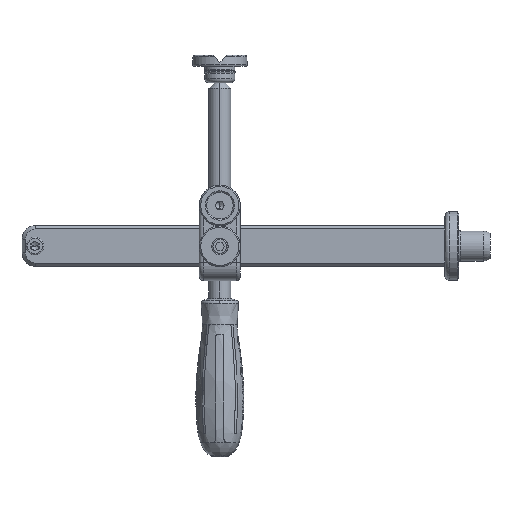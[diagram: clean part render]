
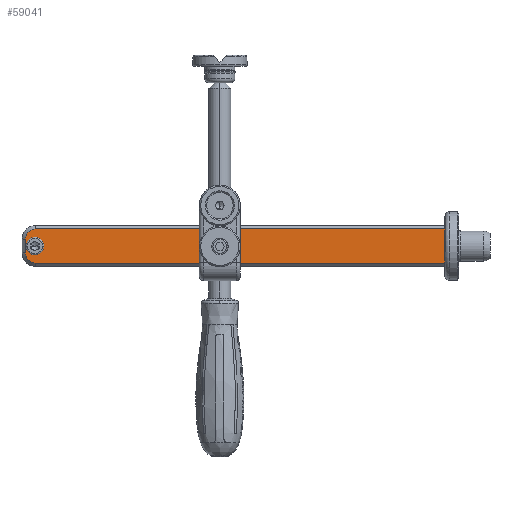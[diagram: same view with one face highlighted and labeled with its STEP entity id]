
A CAD part, left-side view. The second image highlights one B-rep face of the part: STEP entity #59041.
In plain terms, the highlighted planar face has unit normal (-1, 0, 0).
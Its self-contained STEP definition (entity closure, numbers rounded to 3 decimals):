
#1671 = DIRECTION ( 'NONE',  ( 0., 0., -1. ) ) ;
#1850 = CARTESIAN_POINT ( 'NONE',  ( -29., 10., -12.5 ) ) ;
#2211 = DIRECTION ( 'NONE',  ( 0., 1., 0. ) ) ;
#2681 = CIRCLE ( 'NONE', #35494, 4.4 ) ;
#3612 = ORIENTED_EDGE ( 'NONE', *, *, #53959, .T. ) ;
#3701 = DIRECTION ( 'NONE',  ( 0., 0., -1. ) ) ;
#4206 = ORIENTED_EDGE ( 'NONE', *, *, #39644, .T. ) ;
#5154 = VECTOR ( 'NONE', #53302, 1000. ) ;
#5571 = ORIENTED_EDGE ( 'NONE', *, *, #38606, .T. ) ;
#6192 = FACE_BOUND ( 'NONE', #47085, .T. ) ;
#6809 = CARTESIAN_POINT ( 'NONE',  ( -29., 317.5, -5. ) ) ;
#6903 = AXIS2_PLACEMENT_3D ( 'NONE', #27305, #32421, #3701 ) ;
#7207 = CARTESIAN_POINT ( 'NONE',  ( -29., 317.5, 5. ) ) ;
#12142 = CARTESIAN_POINT ( 'NONE',  ( -29., 310., 12.5 ) ) ;
#16421 = LINE ( 'NONE', #29451, #59246 ) ;
#16892 = EDGE_CURVE ( 'NONE', #44545, #17347, #2681, .T. ) ;
#17347 = VERTEX_POINT ( 'NONE', #48644 ) ;
#18708 = VECTOR ( 'NONE', #34644, 1000. ) ;
#20943 = AXIS2_PLACEMENT_3D ( 'NONE', #23767, #42203, #1671 ) ;
#21108 = DIRECTION ( 'NONE',  ( -1., 0., 0. ) ) ;
#21120 = DIRECTION ( 'NONE',  ( 0., 0., -1. ) ) ;
#22461 = DIRECTION ( 'NONE',  ( 0., 0., -1. ) ) ;
#23372 = DIRECTION ( 'NONE',  ( -1., 0., 0. ) ) ;
#23767 = CARTESIAN_POINT ( 'NONE',  ( -29., 320., 15. ) ) ;
#24440 = CARTESIAN_POINT ( 'NONE',  ( -29., 317.5, -5. ) ) ;
#24670 = FACE_OUTER_BOUND ( 'NONE', #54325, .T. ) ;
#25279 = VERTEX_POINT ( 'NONE', #50379 ) ;
#27305 = CARTESIAN_POINT ( 'NONE',  ( -29., 310.5, 0. ) ) ;
#29451 = CARTESIAN_POINT ( 'NONE',  ( -29., 320., 12.5 ) ) ;
#29553 = VECTOR ( 'NONE', #52471, 1000. ) ;
#29636 = ORIENTED_EDGE ( 'NONE', *, *, #45468, .T. ) ;
#30044 = CARTESIAN_POINT ( 'NONE',  ( -29., 320., -12.5 ) ) ;
#30909 = CARTESIAN_POINT ( 'NONE',  ( -29., 10., 12.5 ) ) ;
#31005 = VERTEX_POINT ( 'NONE', #54576 ) ;
#32269 = AXIS2_PLACEMENT_3D ( 'NONE', #36969, #23372, #22461 ) ;
#32421 = DIRECTION ( 'NONE',  ( 1., 0., 0. ) ) ;
#32664 = CARTESIAN_POINT ( 'NONE',  ( -29., 310.5, -4.4 ) ) ;
#32735 = LINE ( 'NONE', #55992, #55175 ) ;
#32894 = ORIENTED_EDGE ( 'NONE', *, *, #36106, .T. ) ;
#34489 = VERTEX_POINT ( 'NONE', #24440 ) ;
#34644 = DIRECTION ( 'NONE',  ( 0., 0., 1. ) ) ;
#34931 = CIRCLE ( 'NONE', #6903, 4.4 ) ;
#34974 = AXIS2_PLACEMENT_3D ( 'NONE', #50173, #21108, #36603 ) ;
#35264 = VERTEX_POINT ( 'NONE', #1850 ) ;
#35494 = AXIS2_PLACEMENT_3D ( 'NONE', #58271, #54042, #21120 ) ;
#36106 = EDGE_CURVE ( 'NONE', #40090, #56275, #54442, .T. ) ;
#36603 = DIRECTION ( 'NONE',  ( 0., 0., -1. ) ) ;
#36969 = CARTESIAN_POINT ( 'NONE',  ( -29., 310., 5. ) ) ;
#38309 = CARTESIAN_POINT ( 'NONE',  ( -29., 10., 15. ) ) ;
#38606 = EDGE_CURVE ( 'NONE', #56275, #34489, #43706, .T. ) ;
#38997 = VERTEX_POINT ( 'NONE', #30909 ) ;
#39103 = LINE ( 'NONE', #30044, #5154 ) ;
#39644 = EDGE_CURVE ( 'NONE', #25279, #38997, #44298, .T. ) ;
#39818 = VECTOR ( 'NONE', #56732, 1000. ) ;
#40090 = VERTEX_POINT ( 'NONE', #12142 ) ;
#42203 = DIRECTION ( 'NONE',  ( 1., 0., 0. ) ) ;
#42241 = LINE ( 'NONE', #38309, #39818 ) ;
#42712 = CIRCLE ( 'NONE', #34974, 7.5 ) ;
#43706 = LINE ( 'NONE', #6809, #29553 ) ;
#43717 = CARTESIAN_POINT ( 'NONE',  ( -29., 10., 15. ) ) ;
#44298 = LINE ( 'NONE', #43717, #18708 ) ;
#44545 = VERTEX_POINT ( 'NONE', #32664 ) ;
#45468 = EDGE_CURVE ( 'NONE', #31005, #35264, #39103, .T. ) ;
#45498 = EDGE_CURVE ( 'NONE', #38997, #40090, #16421, .T. ) ;
#47085 = EDGE_LOOP ( 'NONE', ( #48415, #59307 ) ) ;
#47580 = EDGE_CURVE ( 'NONE', #17347, #44545, #34931, .T. ) ;
#47682 = EDGE_CURVE ( 'NONE', #35264, #50564, #32735, .T. ) ;
#48415 = ORIENTED_EDGE ( 'NONE', *, *, #47580, .T. ) ;
#48644 = CARTESIAN_POINT ( 'NONE',  ( -29., 310.5, 4.4 ) ) ;
#50173 = CARTESIAN_POINT ( 'NONE',  ( -29., 310., -5. ) ) ;
#50379 = CARTESIAN_POINT ( 'NONE',  ( -29., 10., 10.186 ) ) ;
#50564 = VERTEX_POINT ( 'NONE', #55356 ) ;
#52471 = DIRECTION ( 'NONE',  ( 0., 0., -1. ) ) ;
#53302 = DIRECTION ( 'NONE',  ( 0., -1., 0. ) ) ;
#53539 = EDGE_CURVE ( 'NONE', #34489, #31005, #42712, .T. ) ;
#53959 = EDGE_CURVE ( 'NONE', #50564, #25279, #42241, .T. ) ;
#54042 = DIRECTION ( 'NONE',  ( 1., 0., 0. ) ) ;
#54325 = EDGE_LOOP ( 'NONE', ( #56804, #29636, #55085, #3612, #4206, #58340, #32894, #5571 ) ) ;
#54442 = CIRCLE ( 'NONE', #32269, 7.5 ) ;
#54576 = CARTESIAN_POINT ( 'NONE',  ( -29., 310., -12.5 ) ) ;
#55085 = ORIENTED_EDGE ( 'NONE', *, *, #47682, .T. ) ;
#55175 = VECTOR ( 'NONE', #56581, 1000. ) ;
#55356 = CARTESIAN_POINT ( 'NONE',  ( -29., 10., -10.186 ) ) ;
#55992 = CARTESIAN_POINT ( 'NONE',  ( -29., 10., 15. ) ) ;
#56275 = VERTEX_POINT ( 'NONE', #7207 ) ;
#56391 = PLANE ( 'NONE',  #20943 ) ;
#56581 = DIRECTION ( 'NONE',  ( 0., 0., 1. ) ) ;
#56732 = DIRECTION ( 'NONE',  ( 0., 0., 1. ) ) ;
#56804 = ORIENTED_EDGE ( 'NONE', *, *, #53539, .T. ) ;
#58271 = CARTESIAN_POINT ( 'NONE',  ( -29., 310.5, 0. ) ) ;
#58340 = ORIENTED_EDGE ( 'NONE', *, *, #45498, .T. ) ;
#59041 = ADVANCED_FACE ( 'NONE', ( #6192, #24670 ), #56391, .F. ) ;
#59246 = VECTOR ( 'NONE', #2211, 1000. ) ;
#59307 = ORIENTED_EDGE ( 'NONE', *, *, #16892, .T. ) ;
